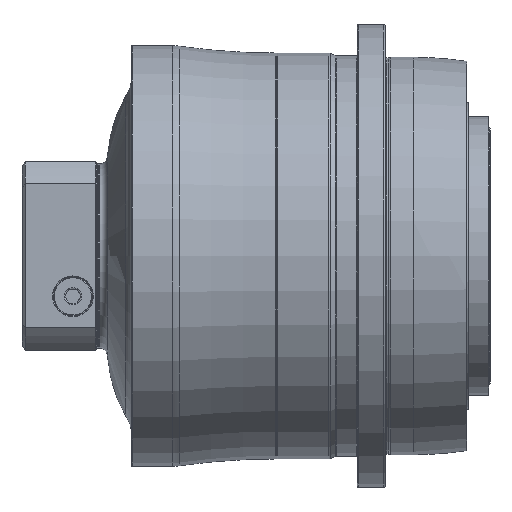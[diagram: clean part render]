
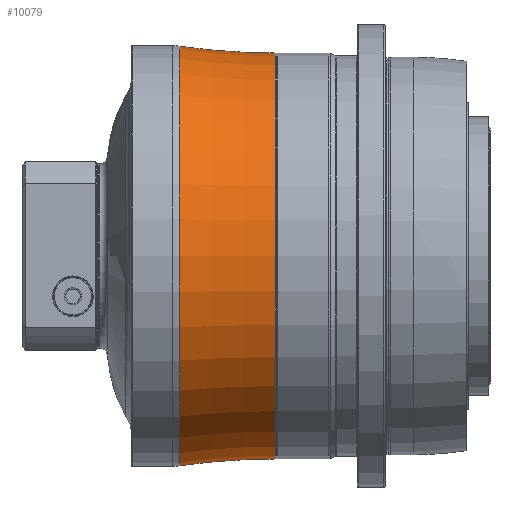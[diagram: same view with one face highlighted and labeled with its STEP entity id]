
A CAD part, top view. The second image highlights one B-rep face of the part: STEP entity #10079.
In plain terms, the highlighted toroidal (fillet/blend) face has major radius 628.22 mm and minor radius 482.72 mm.
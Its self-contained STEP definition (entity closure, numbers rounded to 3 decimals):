
#9005=CARTESIAN_POINT('',(-127.5,628.22,0.));
#9006=DIRECTION('',(0.,0.,1.));
#9007=DIRECTION('',(0.,-1.,0.));
#9008=AXIS2_PLACEMENT_3D('',#9005,#9006,#9007);
#9015=CARTESIAN_POINT('',(-127.5,-628.22,0.));
#9016=DIRECTION('',(0.,0.,-1.));
#9017=DIRECTION('',(0.,1.,0.));
#9018=AXIS2_PLACEMENT_3D('',#9015,#9016,#9017);
#9068=CARTESIAN_POINT('',(-58.929,0.,0.));
#9069=DIRECTION('',(1.,0.,0.));
#9070=DIRECTION('',(0.,1.,0.));
#9071=AXIS2_PLACEMENT_3D('',#9068,#9069,#9070);
#9073=CARTESIAN_POINT('',(-127.5,0.,0.));
#9074=DIRECTION('',(1.,0.,0.));
#9075=DIRECTION('',(0.,1.,0.));
#9076=AXIS2_PLACEMENT_3D('',#9073,#9074,#9075);
#9374=CARTESIAN_POINT('',(-127.5,145.5,0.));
#9375=VERTEX_POINT('',#9374);
#9376=CARTESIAN_POINT('',(-127.5,-145.5,0.));
#9377=VERTEX_POINT('',#9376);
#9426=CARTESIAN_POINT('',(-58.929,150.395,
0.));
#9427=CARTESIAN_POINT('',(-58.929,-150.395,0.));
#9428=VERTEX_POINT('',#9426);
#9429=VERTEX_POINT('',#9427);
#10068=CARTESIAN_POINT('',(-127.5,0.,0.));
#10069=DIRECTION('',(1.,0.,0.));
#10070=DIRECTION('',(0.,-1.,0.));
#10071=AXIS2_PLACEMENT_3D('',#10068,#10069,#10070);
#10072=TOROIDAL_SURFACE('',#10071,628.22,482.72);
#10073=ORIENTED_EDGE('',*,*,#10062,.T.);
#10074=ORIENTED_EDGE('',*,*,#9978,.F.);
#10075=ORIENTED_EDGE('',*,*,#9948,.F.);
#10076=ORIENTED_EDGE('',*,*,#9975,.T.);
#10077=EDGE_LOOP('',(#10073,#10074,#10075,#10076));
#10078=FACE_OUTER_BOUND('',#10077,.F.);
#10079=ADVANCED_FACE('',(#10078),#10072,.F.);
#9009=CIRCLE('',#9008,482.72);
#9019=CIRCLE('',#9018,482.72);
#9072=CIRCLE('',#9071,150.395);
#9077=CIRCLE('',#9076,145.5);
#9948=EDGE_CURVE('',#9375,#9377,#9077,.T.);
#9975=EDGE_CURVE('',#9375,#9428,#9009,.T.);
#9978=EDGE_CURVE('',#9377,#9429,#9019,.T.);
#10062=EDGE_CURVE('',#9428,#9429,#9072,.T.);
